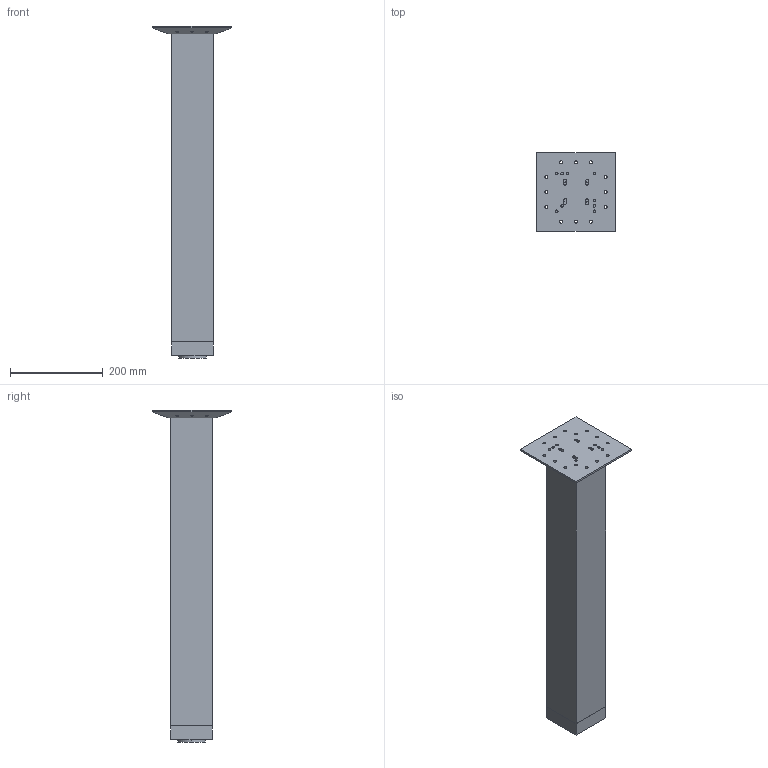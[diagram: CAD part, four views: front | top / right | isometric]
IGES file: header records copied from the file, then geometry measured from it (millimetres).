
Start section: Data from XPlus IGES,  Spatial Corp. Copyright (c) 1999-2004
Global section: file name: 9242993.igs; native system:  By Spatial Corp.; preprocessor: XPlus ACIS/IGES 3.0; author: Noname; organization: Noname; date: 20180222.103457; units: millimetre
Bounding box: 169.84 x 169.84 x 715 mm (x, y, z)
Surface area: 364729.7 mm2 (no closed solid volume)
Topology: 0 solids, 0 shells, 103 faces, 616 edges, 616 vertices
Faces by surface type: revolution 74, extrusion 29
